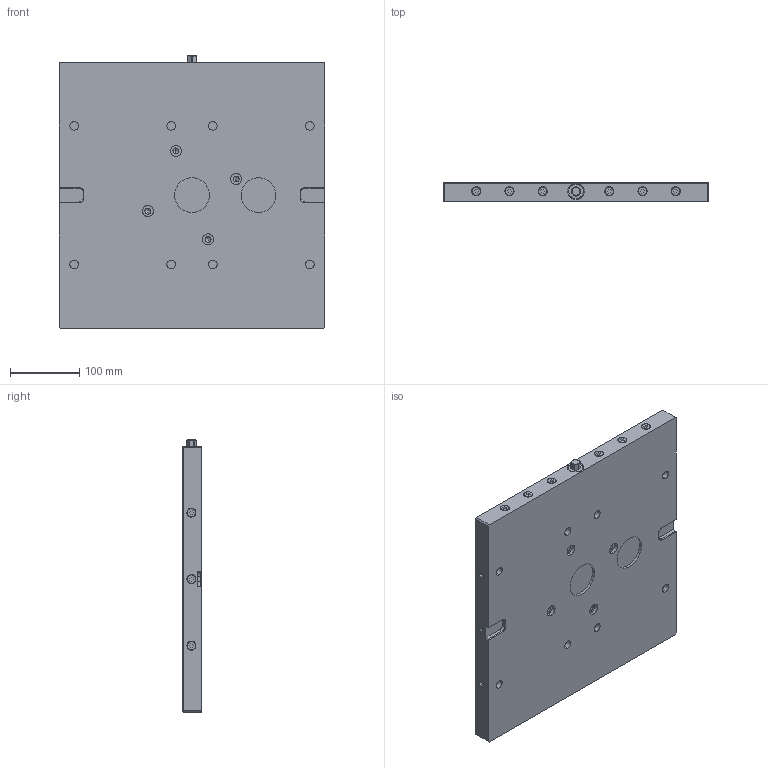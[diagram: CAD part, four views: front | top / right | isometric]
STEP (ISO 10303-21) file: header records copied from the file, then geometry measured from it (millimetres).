
FILE_DESCRIPTION (( 'STEP AP203' ), '1' );
FILE_NAME ('45742.STEP', '2016-09-27T06:41:50', ( '' ), ( '' ), 'SwSTEP 2.0', 'SolidWorks 2015', '' );
FILE_SCHEMA (( 'CONFIG_CONTROL_DESIGN' ));
Length unit declared in the file: millimetre
Products named in the file (1): 45742
Bounding box: 384 x 27 x 393 mm (x, y, z)
Volume: 3449737.6 mm3; surface area: 494269.2 mm2
Topology: 29 solids, 29 shells, 673 faces, 1626 edges, 1009 vertices
Faces by surface type: plane 269, cylinder 262, cone 110, torus 32
Entity records: 22375 total; most frequent: CARTESIAN_POINT 6600, DIRECTION 3293, ORIENTED_EDGE 3236, EDGE_CURVE 1618, AXIS2_PLACEMENT_3D 1225, VERTEX_POINT 1009, VECTOR 843, LINE 843
